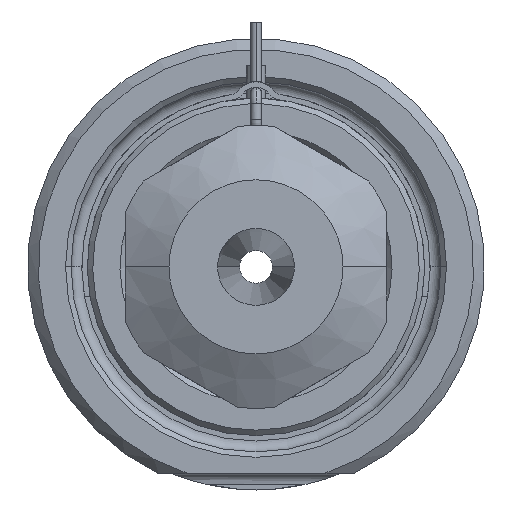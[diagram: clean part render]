
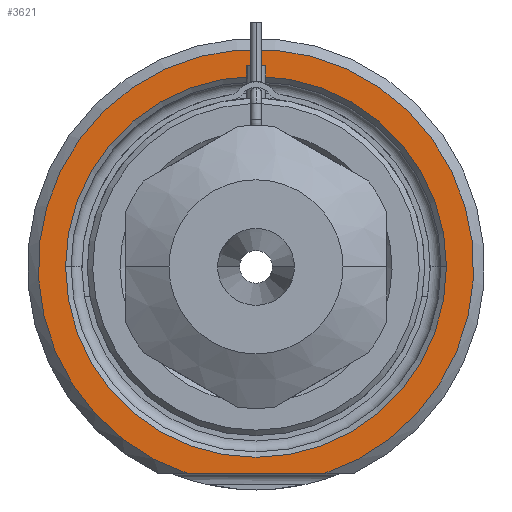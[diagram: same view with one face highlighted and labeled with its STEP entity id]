
A CAD part, front view. The second image highlights one B-rep face of the part: STEP entity #3621.
In plain terms, the highlighted planar face has unit normal (0, -1, 0).
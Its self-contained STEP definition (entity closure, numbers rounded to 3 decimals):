
#690=DIRECTION('',(1.,0.,0.));
#691=VECTOR('',#690,12.49);
#692=CARTESIAN_POINT('',(-6.245,0.,-19.));
#693=LINE('',#692,#691);
#694=CARTESIAN_POINT('',(0.,0.,0.));
#695=DIRECTION('',(0.,1.,0.));
#696=DIRECTION('',(-1.,0.,0.));
#697=AXIS2_PLACEMENT_3D('',#694,#695,#696);
#699=CARTESIAN_POINT('',(0.,0.,0.));
#700=DIRECTION('',(0.,1.,0.));
#701=DIRECTION('',(1.,0.,0.));
#702=AXIS2_PLACEMENT_3D('',#699,#700,#701);
#808=CARTESIAN_POINT('',(0.,0.,0.));
#809=DIRECTION('',(0.,-1.,0.));
#810=DIRECTION('',(0.312,0.,-0.95));
#811=AXIS2_PLACEMENT_3D('',#808,#809,#810);
#2440=CARTESIAN_POINT('',(-17.5,0.,0.));
#2441=CARTESIAN_POINT('',(17.5,0.,0.));
#2442=VERTEX_POINT('',#2440);
#2443=VERTEX_POINT('',#2441);
#2484=CARTESIAN_POINT('',(-6.245,0.,-19.));
#2485=CARTESIAN_POINT('',(6.245,0.,-19.));
#2486=VERTEX_POINT('',#2484);
#2487=VERTEX_POINT('',#2485);
#3605=CARTESIAN_POINT('',(0.,0.,0.));
#3606=DIRECTION('',(0.,-1.,0.));
#3607=DIRECTION('',(1.,0.,0.));
#3608=AXIS2_PLACEMENT_3D('',#3605,#3606,#3607);
#3609=PLANE('',#3608);
#3611=ORIENTED_EDGE('',*,*,#3610,.F.);
#3613=ORIENTED_EDGE('',*,*,#3612,.F.);
#3614=EDGE_LOOP('',(#3611,#3613));
#3615=FACE_OUTER_BOUND('',#3614,.F.);
#3616=ORIENTED_EDGE('',*,*,#3595,.F.);
#3618=ORIENTED_EDGE('',*,*,#3617,.F.);
#3619=EDGE_LOOP('',(#3616,#3618));
#3620=FACE_BOUND('',#3619,.F.);
#3621=ADVANCED_FACE('',(#3615,#3620),#3609,.T.);
#698=CIRCLE('',#697,17.5);
#703=CIRCLE('',#702,17.5);
#812=CIRCLE('',#811,20.);
#3595=EDGE_CURVE('',#2442,#2443,#698,.T.);
#3610=EDGE_CURVE('',#2486,#2487,#693,.T.);
#3612=EDGE_CURVE('',#2487,#2486,#812,.T.);
#3617=EDGE_CURVE('',#2443,#2442,#703,.T.);
